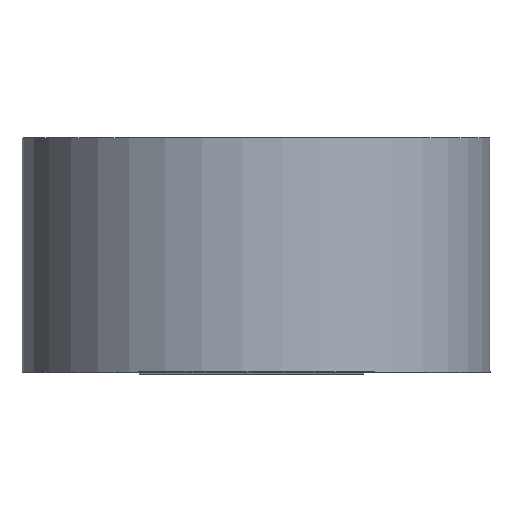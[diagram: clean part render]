
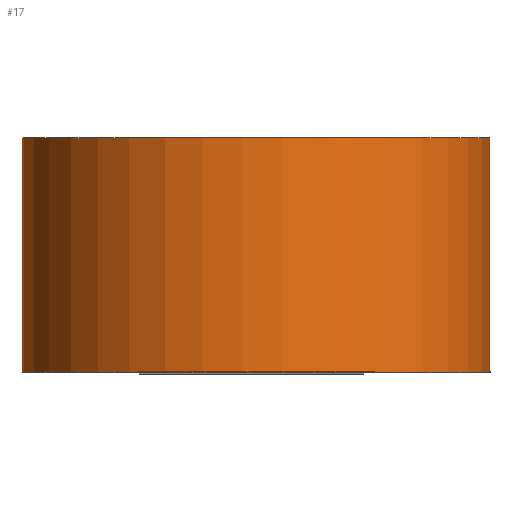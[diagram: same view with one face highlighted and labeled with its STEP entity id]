
A CAD part, top view. The second image highlights one B-rep face of the part: STEP entity #17.
In plain terms, the highlighted cylindrical face has radius 12 mm (diameter 24 mm), a partial arc.
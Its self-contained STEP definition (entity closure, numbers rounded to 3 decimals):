
#17 = ADVANCED_FACE('',(#18),#33,.T.);
#18 = FACE_BOUND('',#19,.F.);
#19 = EDGE_LOOP('',(#20,#56,#82,#115));
#20 = ORIENTED_EDGE('',*,*,#21,.F.);
#21 = EDGE_CURVE('',#22,#24,#26,.T.);
#22 = VERTEX_POINT('',#23);
#23 = CARTESIAN_POINT('',(5.5,6.,-10.665));
#24 = VERTEX_POINT('',#25);
#25 = CARTESIAN_POINT('',(-6.,6.,-10.392));
#26 = SURFACE_CURVE('',#27,(#32,#44),.PCURVE_S1.);
#27 = CIRCLE('',#28,12.);
#28 = AXIS2_PLACEMENT_3D('',#29,#30,#31);
#29 = CARTESIAN_POINT('',(0.,6.,0.));
#30 = DIRECTION('',(0.,-1.,0.));
#31 = DIRECTION('',(0.458,0.,-0.889));
#32 = PCURVE('',#33,#38);
#33 = CYLINDRICAL_SURFACE('',#34,12.);
#34 = AXIS2_PLACEMENT_3D('',#35,#36,#37);
#35 = CARTESIAN_POINT('',(0.,6.,0.));
#36 = DIRECTION('',(-0.,1.,-0.));
#37 = DIRECTION('',(1.,0.,0.));
#38 = DEFINITIONAL_REPRESENTATION('',(#39),#43);
#39 = LINE('',#40,#41);
#40 = CARTESIAN_POINT('',(-5.189,0.));
#41 = VECTOR('',#42,1.);
#42 = DIRECTION('',(-1.,0.));
#43 = ( GEOMETRIC_REPRESENTATION_CONTEXT(2) 
PARAMETRIC_REPRESENTATION_CONTEXT() REPRESENTATION_CONTEXT('2D SPACE',''
  ) );
#44 = PCURVE('',#45,#50);
#45 = PLANE('',#46);
#46 = AXIS2_PLACEMENT_3D('',#47,#48,#49);
#47 = CARTESIAN_POINT('',(0.,6.,0.));
#48 = DIRECTION('',(-0.,-1.,-0.));
#49 = DIRECTION('',(0.,0.,-1.));
#50 = DEFINITIONAL_REPRESENTATION('',(#51),#55);
#51 = CIRCLE('',#52,12.);
#52 = AXIS2_PLACEMENT_2D('',#53,#54);
#53 = CARTESIAN_POINT('',(0.,0.));
#54 = DIRECTION('',(0.889,0.458));
#55 = ( GEOMETRIC_REPRESENTATION_CONTEXT(2) 
PARAMETRIC_REPRESENTATION_CONTEXT() REPRESENTATION_CONTEXT('2D SPACE',''
  ) );
#56 = ORIENTED_EDGE('',*,*,#57,.F.);
#57 = EDGE_CURVE('',#58,#22,#60,.T.);
#58 = VERTEX_POINT('',#59);
#59 = CARTESIAN_POINT('',(5.5,-6.,-10.665));
#60 = SURFACE_CURVE('',#61,(#65,#71),.PCURVE_S1.);
#61 = LINE('',#62,#63);
#62 = CARTESIAN_POINT('',(5.5,6.,-10.665));
#63 = VECTOR('',#64,1.);
#64 = DIRECTION('',(-0.,1.,-0.));
#65 = PCURVE('',#33,#66);
#66 = DEFINITIONAL_REPRESENTATION('',(#67),#70);
#67 = B_SPLINE_CURVE_WITH_KNOTS('',1,(#68,#69),.UNSPECIFIED.,.F.,.F.,(2,
    2),(-12.,0.),.PIECEWISE_BEZIER_KNOTS.);
#68 = CARTESIAN_POINT('',(-5.189,-12.));
#69 = CARTESIAN_POINT('',(-5.189,0.));
#70 = ( GEOMETRIC_REPRESENTATION_CONTEXT(2) 
PARAMETRIC_REPRESENTATION_CONTEXT() REPRESENTATION_CONTEXT('2D SPACE',''
  ) );
#71 = PCURVE('',#72,#77);
#72 = PLANE('',#73);
#73 = AXIS2_PLACEMENT_3D('',#74,#75,#76);
#74 = CARTESIAN_POINT('',(5.5,-6.,-60.));
#75 = DIRECTION('',(1.,0.,0.));
#76 = DIRECTION('',(0.,0.,1.));
#77 = DEFINITIONAL_REPRESENTATION('',(#78),#81);
#78 = B_SPLINE_CURVE_WITH_KNOTS('',1,(#79,#80),.UNSPECIFIED.,.F.,.F.,(2,
    2),(-12.,0.),.PIECEWISE_BEZIER_KNOTS.);
#79 = CARTESIAN_POINT('',(49.335,0.));
#80 = CARTESIAN_POINT('',(49.335,-12.));
#81 = ( GEOMETRIC_REPRESENTATION_CONTEXT(2) 
PARAMETRIC_REPRESENTATION_CONTEXT() REPRESENTATION_CONTEXT('2D SPACE',''
  ) );
#82 = ORIENTED_EDGE('',*,*,#83,.F.);
#83 = EDGE_CURVE('',#84,#58,#86,.T.);
#84 = VERTEX_POINT('',#85);
#85 = CARTESIAN_POINT('',(-6.,-6.,-10.392));
#86 = SURFACE_CURVE('',#87,(#92,#99),.PCURVE_S1.);
#87 = CIRCLE('',#88,12.);
#88 = AXIS2_PLACEMENT_3D('',#89,#90,#91);
#89 = CARTESIAN_POINT('',(0.,-6.,0.));
#90 = DIRECTION('',(0.,1.,0.));
#91 = DIRECTION('',(-0.5,0.,-0.866));
#92 = PCURVE('',#33,#93);
#93 = DEFINITIONAL_REPRESENTATION('',(#94),#98);
#94 = LINE('',#95,#96);
#95 = CARTESIAN_POINT('',(-10.472,-12.));
#96 = VECTOR('',#97,1.);
#97 = DIRECTION('',(1.,-0.));
#98 = ( GEOMETRIC_REPRESENTATION_CONTEXT(2) 
PARAMETRIC_REPRESENTATION_CONTEXT() REPRESENTATION_CONTEXT('2D SPACE',''
  ) );
#99 = PCURVE('',#100,#105);
#100 = PLANE('',#101);
#101 = AXIS2_PLACEMENT_3D('',#102,#103,#104);
#102 = CARTESIAN_POINT('',(0.,-6.,0.));
#103 = DIRECTION('',(-0.,-1.,-0.));
#104 = DIRECTION('',(0.,0.,-1.));
#105 = DEFINITIONAL_REPRESENTATION('',(#106),#114);
#106 = ( BOUNDED_CURVE() B_SPLINE_CURVE(2,(#107,#108,#109,#110,#111,#112
,#113),.UNSPECIFIED.,.T.,.F.) B_SPLINE_CURVE_WITH_KNOTS((1,2,2,2,2,1),(
    -2.094,0.,2.094,4.189,6.283,
8.378),.UNSPECIFIED.) CURVE() GEOMETRIC_REPRESENTATION_ITEM() 
RATIONAL_B_SPLINE_CURVE((1.,0.5,1.,0.5,1.,0.5,1.)) REPRESENTATION_ITEM(
  '') );
#107 = CARTESIAN_POINT('',(10.392,-6.));
#108 = CARTESIAN_POINT('',(0.,-24.));
#109 = CARTESIAN_POINT('',(-10.392,-6.));
#110 = CARTESIAN_POINT('',(-20.785,12.));
#111 = CARTESIAN_POINT('',(0.,12.));
#112 = CARTESIAN_POINT('',(20.785,12.));
#113 = CARTESIAN_POINT('',(10.392,-6.));
#114 = ( GEOMETRIC_REPRESENTATION_CONTEXT(2) 
PARAMETRIC_REPRESENTATION_CONTEXT() REPRESENTATION_CONTEXT('2D SPACE',''
  ) );
#115 = ORIENTED_EDGE('',*,*,#116,.T.);
#116 = EDGE_CURVE('',#84,#24,#117,.T.);
#117 = SURFACE_CURVE('',#118,(#122,#128),.PCURVE_S1.);
#118 = LINE('',#119,#120);
#119 = CARTESIAN_POINT('',(-6.,6.,-10.392));
#120 = VECTOR('',#121,1.);
#121 = DIRECTION('',(-0.,1.,-0.));
#122 = PCURVE('',#33,#123);
#123 = DEFINITIONAL_REPRESENTATION('',(#124),#127);
#124 = B_SPLINE_CURVE_WITH_KNOTS('',1,(#125,#126),.UNSPECIFIED.,.F.,.F.,
  (2,2),(-12.,0.),.PIECEWISE_BEZIER_KNOTS.);
#125 = CARTESIAN_POINT('',(-10.472,-12.));
#126 = CARTESIAN_POINT('',(-10.472,0.));
#127 = ( GEOMETRIC_REPRESENTATION_CONTEXT(2) 
PARAMETRIC_REPRESENTATION_CONTEXT() REPRESENTATION_CONTEXT('2D SPACE',''
  ) );
#128 = PCURVE('',#129,#134);
#129 = PLANE('',#130);
#130 = AXIS2_PLACEMENT_3D('',#131,#132,#133);
#131 = CARTESIAN_POINT('',(-6.,-6.,-60.));
#132 = DIRECTION('',(1.,0.,0.));
#133 = DIRECTION('',(0.,0.,1.));
#134 = DEFINITIONAL_REPRESENTATION('',(#135),#138);
#135 = B_SPLINE_CURVE_WITH_KNOTS('',1,(#136,#137),.UNSPECIFIED.,.F.,.F.,
  (2,2),(-12.,0.),.PIECEWISE_BEZIER_KNOTS.);
#136 = CARTESIAN_POINT('',(49.608,0.));
#137 = CARTESIAN_POINT('',(49.608,-12.));
#138 = ( GEOMETRIC_REPRESENTATION_CONTEXT(2) 
PARAMETRIC_REPRESENTATION_CONTEXT() REPRESENTATION_CONTEXT('2D SPACE',''
  ) );
